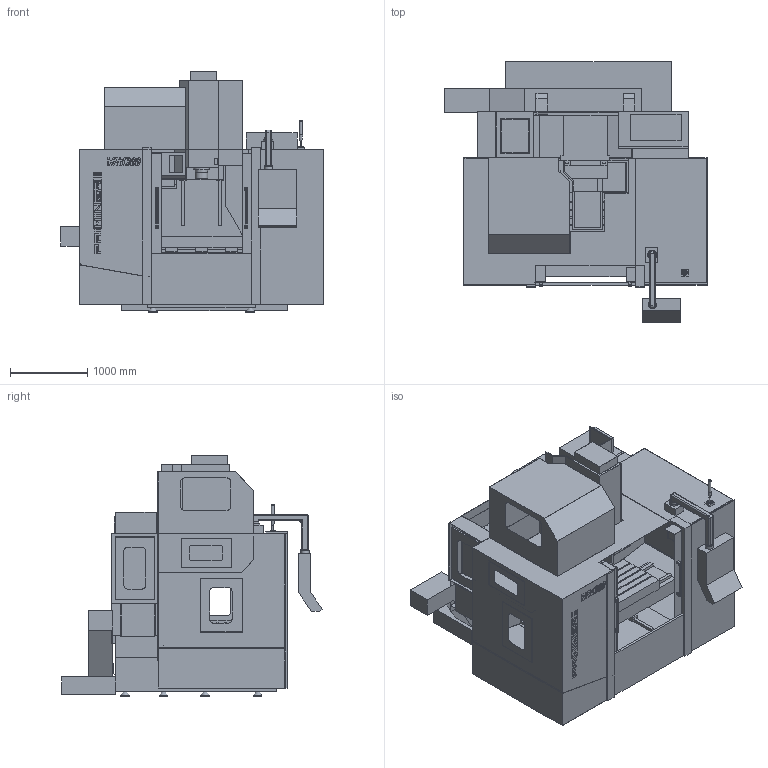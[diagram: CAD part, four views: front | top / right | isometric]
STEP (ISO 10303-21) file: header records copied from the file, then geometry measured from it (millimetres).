
FILE_DESCRIPTION(/* description */ (''),/* implementation_level */ '2;1');
FILE_NAME(/* name */ 'VF1300应用简化-后侧排屑机.stp',/* time_stamp */ '2022-12-12T19:05:56+08:00',/* author */ (''),/* organization */ (''),/* preprocessor_version */ 'ST-DEVELOPER v18.102',/* originating_system */ 'SIEMENS PLM Software NX2206.5001',/* authorisation */ '');
FILE_SCHEMA (('AP203_CONFIGURATION_CONTROLLED_3D_DESIGN_OF_MECHANICAL_PARTS_AND_ASSEMBLIES_MIM_LF { 1 0 10303 403 2 1 2}'));
Products named in the file (1): VF1300应用简化-后侧排屑机_
objects
Bounding box: 3394 x 3378.36 x 3127.95 mm (x, y, z)
Volume: 3703227702.2 mm3; surface area: 121669688.3 mm2
Topology: 44 solids, 78 shells, 2419 faces, 6544 edges, 4293 vertices
Faces by surface type: plane 2080, cylinder 253, cone 35, bspline 27, torus 19, extrusion 5
Full cylindrical faces by diameter (mm): 4.134 x4, 5.5 x4, 6.647 x4, 8.5 x4, 20 x1, 43.437 x1, 69 x1, 100 x1, 110 x9, 120 x1, 158 x1, 165 x1, 208 x1
Entity records: 93032 total; most frequent: CARTESIAN_POINT 18691, ORIENTED_EDGE 12890, DIRECTION 11617, EDGE_CURVE 6445, VECTOR 5813, LINE 5808, VERTEX_POINT 4264, AXIS2_PLACEMENT_3D 2902
